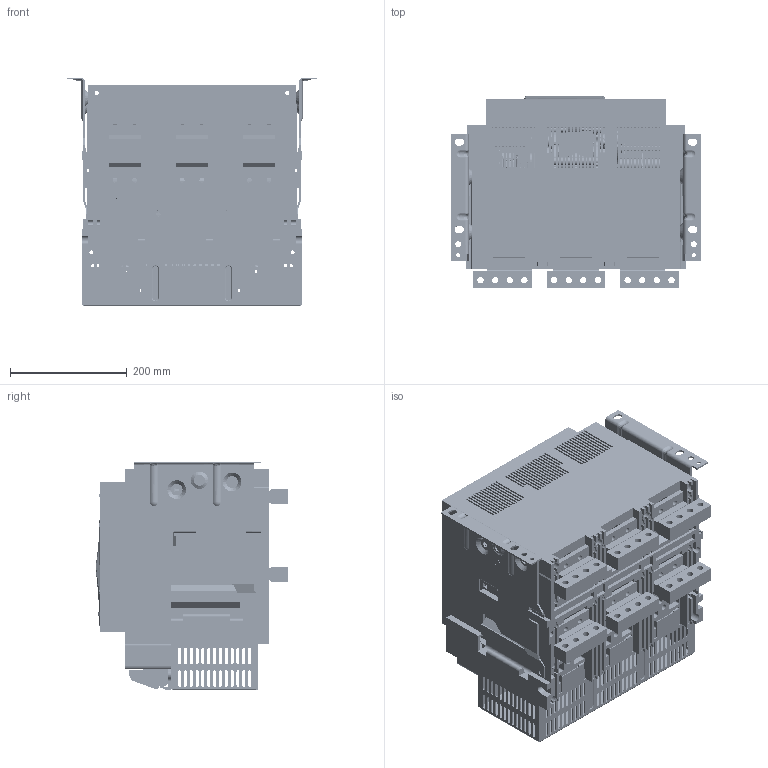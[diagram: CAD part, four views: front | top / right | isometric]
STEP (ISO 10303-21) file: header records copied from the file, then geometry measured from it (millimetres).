
FILE_DESCRIPTION((''),'2;1');
FILE_NAME('NA8G-4000-4000-3P-F-SC_ASM','2020-01-15T17:06:52',('lcc'),(''),'CREO PARAMETRIC BY PTC INC, 2018020','CREO PARAMETRIC BY PTC INC, 2018020','');
FILE_SCHEMA(('CONFIG_CONTROL_DESIGN','SHAPE_APPEARANCE_LAYERS_GROUPS'));
Products named in the file (185): 5ZTD-024-175; 5024A0203009; 8ZTD-060-A003-201804; 8ZTD-062-A004-201804; 8-060-145-3; 8580A0412010; 8580A0412011; 3P-8300A0306005_; 8050A0306009; 8940A0310001; 5050A1527001_ASM; 8206A0312073; 8206A0312079; 8206A0312063; 8206A0312080; 8206A0312067; 8206A0312074; 8206A0312072; 8206A0312061; 8206A0312069; 5050A1516007_ASM; 8231A0306002; 8441A0101005; 8860A1424011; 5441A1526003_ASM; GBT896-3; GBT896-6; 8288A0820028_AF0; 8288A0820030_AF0; 5050A1526007_ASM; 8050A0307001; 8206A0312082; 8206A0312075; 5050A1516008_ASM; 8441A0101006; 8860A1424010; 5441A1526004_ASM; 8206A0312078; 8235A0306002; GBT93-3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
Assembly tree (308 placements, depth 6):
  NA8G-4000-4000-3P-F-SC_ASM
    5ZTD-024-175
    5024A0203009
    8ZTD-060-A003-201804
    8ZTD-062-A004-201804
    8-060-145-3
    8580A0412010  x2
    8580A0412011  x4
    3P-8300A0306005_
    NA8G-4000-3P-JG_ASM
      5050A1526007_ASM
        5050A1516007_ASM
          5050A1527001_ASM
            8050A0306009
            8940A0310001
          8206A0312073  x3
          8206A0312079
          8206A0312063
          8206A0312080  x2
          8206A0312067
          8206A0312074  x2
          8206A0312072
          8206A0312061
          8206A0312069
        8231A0306002
        5441A1526003_ASM
          8441A0101005
          8860A1424011
        GBT896-3
        GBT896-6
        8288A0820028_AF0
        8288A0820030_AF0
      5050A1526008_ASM
        5050A1516008_ASM
          8050A0307001
          8206A0312082
          8206A0312073  x3
          8206A0312069
          8206A0312075
        5441A1526004_ASM
          8441A0101006
          8860A1424010
        8206A0312078  x2
        8235A0306002
        GBT93-3  x2
        GBT6170-M3  x2
        GBT896-2
        GBT896-3  x2
        GBT896-4  x2
        8288A0820030_AF1
        8288A0820030_AF2
        8288A0820024_AF0
        8288A0820025_AF0
      8206A0312066
      5263A1526005_ASM
        8263A0312002
        8210A0411007
      5263A1526004_ASM
        8263A0312001
        8210A0411007
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Bounding box: 430 x 330.5 x 392 mm (x, y, z)
Volume: 8689735 mm3; surface area: 3979483 mm2
Topology: 509 solids, 639 shells, 30272 faces, 81050 edges, 52944 vertices
Faces by surface type: plane 19644, cylinder 6891, cone 1615, bspline 1401, torus 599, sphere 106, extrusion 16
Entity records: 540966 total; most frequent: CARTESIAN_POINT 138207, ORIENTED_EDGE 65599, DIRECTION 64601, EDGE_CURVE 32895, PRESENTATION_STYLE_ASSIGNMENT 27398, STYLED_ITEM 27086, CURVE_STYLE 26909, VECTOR 24105
